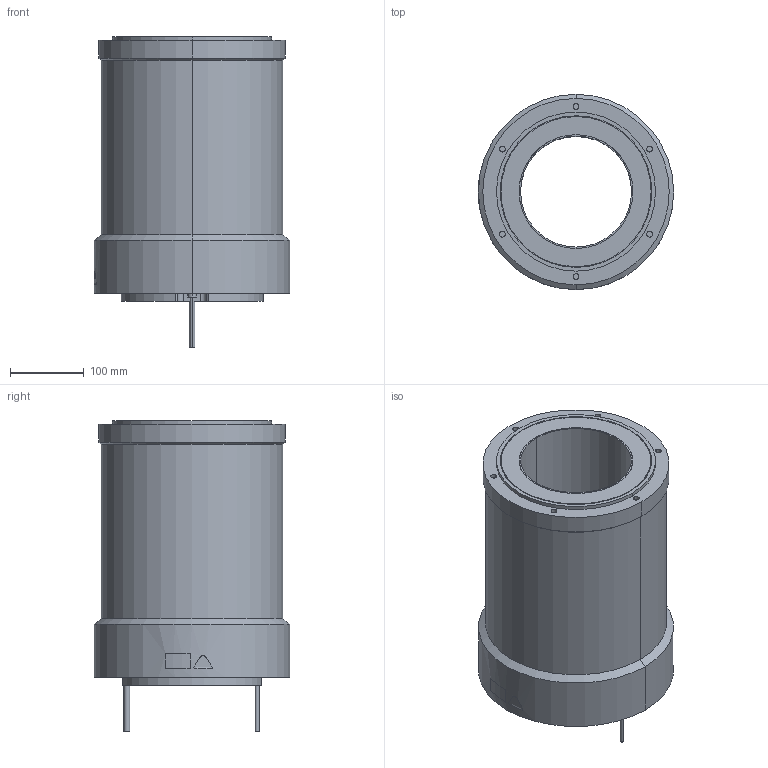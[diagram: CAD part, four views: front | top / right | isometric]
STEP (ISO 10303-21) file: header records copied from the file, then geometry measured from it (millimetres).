
FILE_DESCRIPTION (( 'STEP AP203' ), '1' );
FILE_NAME ('sgm7d_2di_c5_.STEP', '2016-02-22T10:08:46', ( '' ), ( '' ), 'SwSTEP 2.0', 'SolidWorks 2010', '' );
FILE_SCHEMA (( 'CONFIG_CONTROL_DESIGN' ));
Length unit declared in the file: millimetre
Products named in the file (1): sgm7d_2di_c5_
Bounding box: 264.08 x 264 x 420 mm (x, y, z)
Volume: 10715173.1 mm3; surface area: 538285 mm2
Topology: 1 solids, 1 shells, 171 faces, 400 edges, 263 vertices
Faces by surface type: cylinder 103, plane 59, bspline 5, cone 4
Entity records: 5246 total; most frequent: CARTESIAN_POINT 1074, DIRECTION 933, ORIENTED_EDGE 800, EDGE_CURVE 400, AXIS2_PLACEMENT_3D 382, VERTEX_POINT 263, CIRCLE 215, EDGE_LOOP 205
